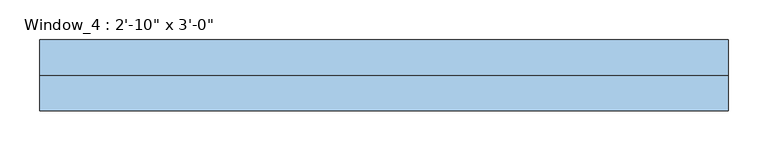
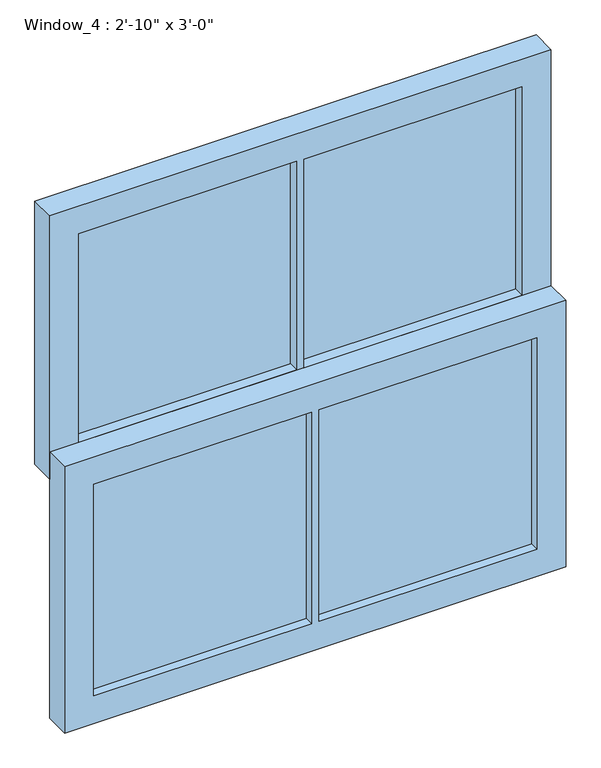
"""IFC4 building model written with IfcOpenShell, lengths in millimetres: window geometry."""

from ifc_helpers import new_model, si_unit, frame, origin, place, context, project, spatial, polyline, outline, extrude, source, transform, mapped, element, save


def window_1a2cd0af(model_context):
    return source(origin(), model_context, "Body", "SweptSolid", [
        extrude(outline(polyline([(-6.35, -44.45), (-381.8, -44.45), (-381.8, -37.5146408), (-6.35, -37.5146408), (-6.35, -44.45)])), frame((0.0, 0.0, 1323.175), z_axis=(0.0, 0.0, 1.0), x_axis=(1.0, 0.0, 0.0)), (0.0, 0.0, 1.0), 379.425),
        extrude(outline(polyline([(381.8, -44.45), (6.35, -44.45), (6.35, -37.5146408), (381.8, -37.5146408), (381.8, -44.45)])), frame((0.0, 0.0, 1323.175), z_axis=(0.0, 0.0, 1.0), x_axis=(1.0, 0.0, 0.0)), (0.0, 0.0, 1.0), 379.425),
        extrude(outline(polyline([(1752.6, -431.8), (1273.175, -431.8), (1273.175, 431.8), (1752.6, 431.8), (1752.6, -431.8)]), holes=[polyline([(1702.6, 6.35), (1702.6, 381.8), (1323.175, 381.8), (1323.175, 6.35), (1702.6, 6.35)]), polyline([(1323.175, -381.8), (1702.6, -381.8), (1702.6, -6.35), (1323.175, -6.35), (1323.175, -381.8)])]), frame((0.0, -63.5, 0.0), z_axis=(0.0, 1.0, 0.0), x_axis=(0.0, 0.0, 1.0)), (0.0, 0.0, 1.0), 44.45),
        extrude(outline(polyline([(6.35, -79.375), (381.8, -79.375), (381.8, -92.075), (6.35, -92.075), (6.35, -79.375)])), frame((0.0, 0.0, 888.2), z_axis=(0.0, 0.0, 1.0), x_axis=(1.0, 0.0, 0.0)), (0.0, 0.0, 1.0), 384.975),
        extrude(outline(polyline([(-381.8, -79.375), (-6.35, -79.375), (-6.35, -92.075), (-381.8, -92.075), (-381.8, -79.375)])), frame((0.0, 0.0, 888.2), z_axis=(0.0, 0.0, 1.0), x_axis=(1.0, 0.0, 0.0)), (0.0, 0.0, 1.0), 384.975),
        extrude(outline(polyline([(1323.175, -431.8), (838.2, -431.8), (838.2, 431.8), (1323.175, 431.8), (1323.175, -431.8)]), holes=[polyline([(888.2, -381.8), (1273.175, -381.8), (1273.175, -6.35), (888.2, -6.35), (888.2, -381.8)]), polyline([(1273.175, 6.35), (1273.175, 381.8), (888.2, 381.8), (888.2, 6.35), (1273.175, 6.35)])]), frame((0.0, -107.95, 0.0), z_axis=(0.0, 1.0, 0.0), x_axis=(0.0, 0.0, 1.0)), (0.0, 0.0, 1.0), 44.45),
    ])


if __name__ == "__main__":
    model = new_model("IFC4")
    model_context = context("Model", 3, world=origin())
    ifc_project = project(units=[si_unit("LENGTHUNIT", "METRE", prefix="MILLI")], contexts=[model_context])
    site = spatial("IfcSite", under=ifc_project)
    building = spatial("IfcBuilding", under=site)
    placement = place(None, origin())
    window_shape = window_1a2cd0af(model_context)
    element("IfcWindow", 1, ObjectType="Window_4 : 2'-10\" x 3'-0\"", at=placement, inside=building, context=model_context, shape_type="MappedRepresentation", body=[
        mapped(window_shape, transform((0.0, 0.0, 0.0), x_axis=(1.0, 0.0, 0.0), y_axis=(0.0, 1.0, 0.0), z_axis=(0.0, 0.0, 1.0))),
    ])
    save(model, "model.ifc")
